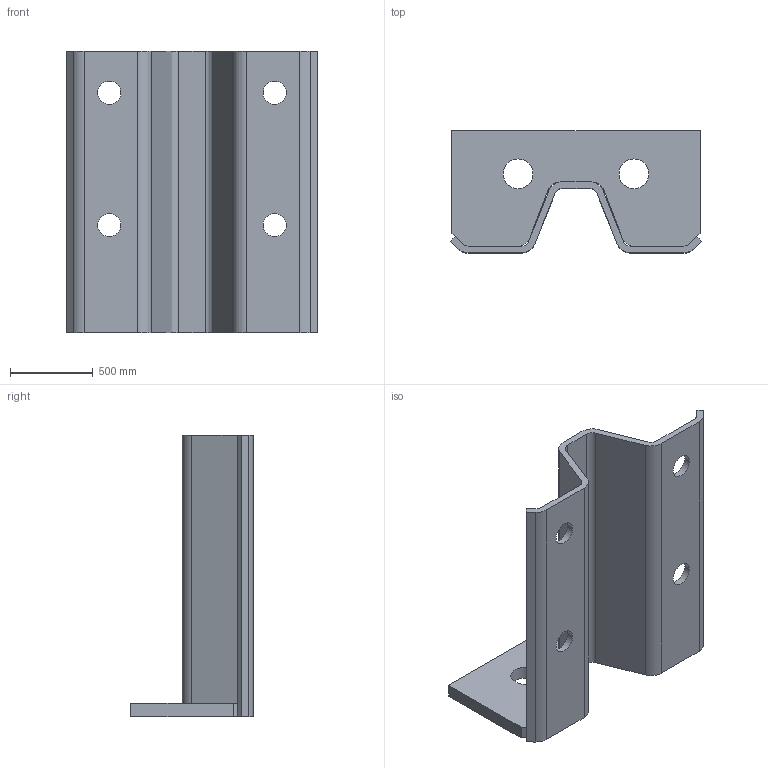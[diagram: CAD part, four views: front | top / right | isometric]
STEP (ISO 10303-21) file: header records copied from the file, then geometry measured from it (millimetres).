
FILE_DESCRIPTION(/* description */ (''),/* implementation_level */ '2;1');
FILE_NAME(/* name */ 'ZB200W70.stp',/* time_stamp */ '2024-10-31T15:18:05+01:00',/* author */ ('woriedl'),/* organization */ (''),/* preprocessor_version */ 'ST-DEVELOPER v20',/* originating_system */ 'AutoCAD Mechanical',/* authorisation */ '');
FILE_SCHEMA (('AUTOMOTIVE_DESIGN { 1 0 10303 214 3 1 1 }'));
Length unit declared in the file: centimetre
Products named in the file (3): Product; ZC200; W70
Assembly tree (2 placements, depth 2):
  Product
    ZC200
    W70
Bounding box: 1517.2 x 740 x 1700 mm (x, y, z)
Volume: 200131908.7 mm3; surface area: 9213498.8 mm2
Topology: 2 solids, 2 shells, 54 faces, 150 edges, 100 vertices
Faces by surface type: plane 30, cylinder 24
Full cylindrical faces by diameter (mm): 140 x4, 180 x2
Entity records: 1830 total; most frequent: DIRECTION 316, CARTESIAN_POINT 309, ORIENTED_EDGE 300, EDGE_CURVE 150, AXIS2_PLACEMENT_3D 107, LINE 102, VECTOR 102, VERTEX_POINT 100
